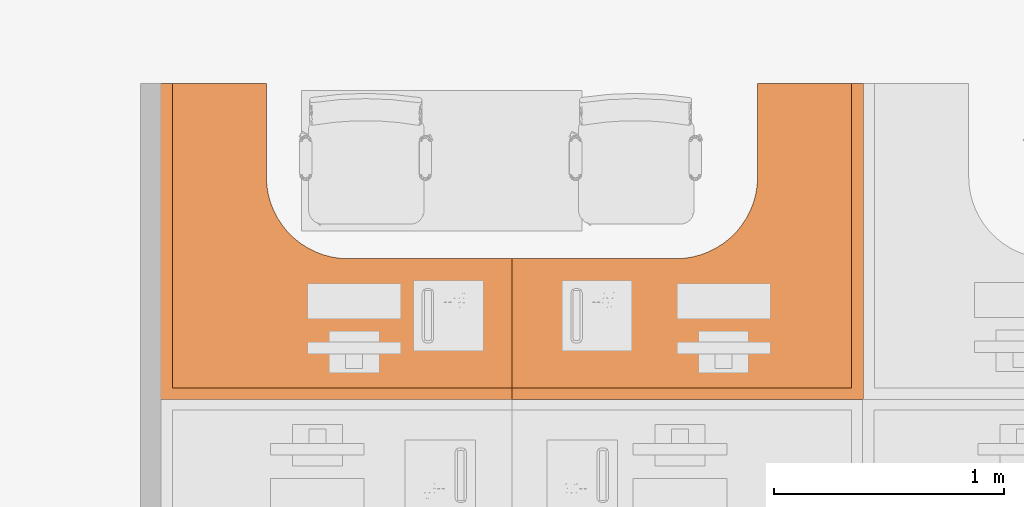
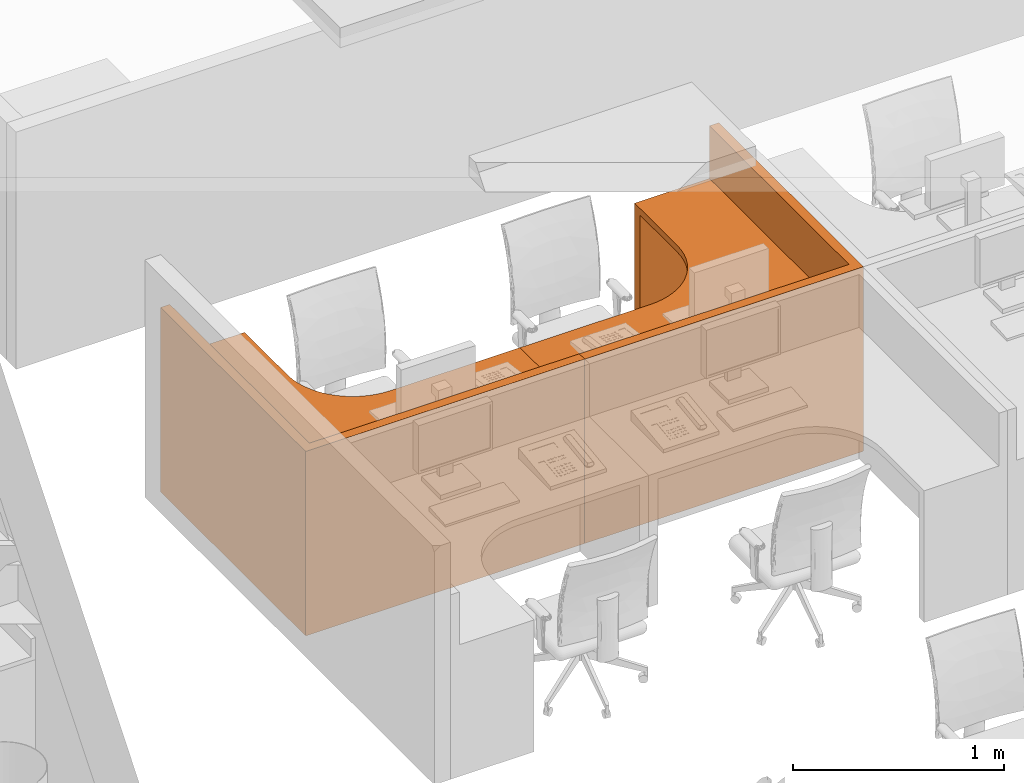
# One storey, part 28 of 142: 2 proxies.
"""IFC2X3 building model written with IfcOpenShell, lengths in feet."""

from ifc_helpers import new_model, entity, si_unit, converted_unit, derived_unit, direction, frame, frame_2d, origin, origin_2d_with_axis, place, context, subcontext, project, spatial, polyline, circle_curve, parameter, trimmed, segment, composite_curve, rectangle, outline, extrude, source, transform, mapped, type_object, type_shapes, element, save


model = new_model("IFC2X3")

# Units and contexts
model_context = context("Model", 3, precision=0.0001, world=origin(), true_north=direction((6.12303176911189e-17, 1.0)))
body_context = subcontext(model_context, "Body", "Model", "MODEL_VIEW")
ifc_project = project(units=[converted_unit("LENGTHUNIT", "FOOT", entity("IfcRatioMeasure", 0.3048), si_unit("LENGTHUNIT", "METRE"), dimensions=[1, 0, 0, 0, 0, 0, 0]), converted_unit("AREAUNIT", "SQUARE FOOT", entity("IfcRatioMeasure", 0.09290304), si_unit("AREAUNIT", "SQUARE_METRE"), dimensions=[2, 0, 0, 0, 0, 0, 0]), converted_unit("VOLUMEUNIT", "CUBIC FOOT", entity("IfcRatioMeasure", 0.028316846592), si_unit("VOLUMEUNIT", "CUBIC_METRE"), dimensions=[3, 0, 0, 0, 0, 0, 0]), converted_unit("PLANEANGLEUNIT", "DEGREE", entity("IfcRatioMeasure", 0.0174532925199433), si_unit("PLANEANGLEUNIT", "RADIAN"), dimensions=[0, 0, 0, 0, 0, 0, 0]), si_unit("MASSUNIT", "GRAM", prefix="KILO"), derived_unit("MASSDENSITYUNIT", [(si_unit("MASSUNIT", "GRAM", prefix="KILO"), 1), (si_unit("LENGTHUNIT", "METRE"), -3)]), si_unit("TIMEUNIT", "SECOND"), si_unit("FREQUENCYUNIT", "HERTZ"), si_unit("THERMODYNAMICTEMPERATUREUNIT", "DEGREE_CELSIUS"), derived_unit("THERMALTRANSMITTANCEUNIT", [(si_unit("MASSUNIT", "GRAM", prefix="KILO"), 1), (si_unit("THERMODYNAMICTEMPERATUREUNIT", "KELVIN"), -1), (si_unit("TIMEUNIT", "SECOND"), -3)]), derived_unit("VOLUMETRICFLOWRATEUNIT", [(si_unit("LENGTHUNIT", "METRE"), 3), (si_unit("TIMEUNIT", "SECOND"), -1)]), si_unit("ELECTRICCURRENTUNIT", "AMPERE"), si_unit("ELECTRICVOLTAGEUNIT", "VOLT"), si_unit("POWERUNIT", "WATT"), si_unit("FORCEUNIT", "NEWTON"), si_unit("ILLUMINANCEUNIT", "LUX"), si_unit("LUMINOUSFLUXUNIT", "LUMEN"), si_unit("LUMINOUSINTENSITYUNIT", "CANDELA"), derived_unit("USERDEFINED", [(si_unit("MASSUNIT", "GRAM", prefix="KILO"), -1), (si_unit("LENGTHUNIT", "METRE"), -2), (si_unit("TIMEUNIT", "SECOND"), 3), (si_unit("LUMINOUSFLUXUNIT", "LUMEN"), 1)]), derived_unit("LINEARVELOCITYUNIT", [(si_unit("LENGTHUNIT", "METRE"), 1), (si_unit("TIMEUNIT", "SECOND"), -1)]), si_unit("PRESSUREUNIT", "PASCAL"), derived_unit("USERDEFINED", [(si_unit("LENGTHUNIT", "METRE"), -2), (si_unit("MASSUNIT", "GRAM", prefix="KILO"), 1), (si_unit("TIMEUNIT", "SECOND"), -2)])], contexts=[model_context])

# Site, building, storey, space
site_placement = place(None, origin())
site = spatial("IfcSite", under=ifc_project, at=site_placement, Name="Default", CompositionType="ELEMENT")
building_placement = place(site_placement, origin())
building = spatial("IfcBuilding", under=site, at=building_placement, Name="OUTPATIENT / PACT CLINIC (Ch. 265)", CompositionType="ELEMENT")
storey_placement = place(building_placement, origin())
storey = spatial("IfcBuildingStorey", under=building, at=storey_placement, Name="LEVEL 1", CompositionType="ELEMENT", Elevation=0.0)
space_placement = place(storey_placement, origin())
space = spatial("IfcSpace", under=storey, at=space_placement, Name="WRTM1", CompositionType="ELEMENT", InteriorOrExteriorSpace="INTERNAL")

# Proxies
building_element_proxy_type_1 = type_object("IfcBuildingElementProxyType", Name="U0075 - Workstation, L-Shaped, Freestanding, 60x54", PredefinedType="NOTDEFINED")
shared_shape_1 = source(origin(), body_context, "Body", "SweptSolid", [
    extrude(rectangle(XDim=0.166666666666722, YDim=2.0, at=frame_2d((-1.3836154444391e-14, 0.0), x_axis=(1.0, 0.0))), frame((0.0833333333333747, -1.0, 0.0), z_axis=(0.0, 0.0, 1.0), x_axis=(-1.0, 0.0, 0.0)), (0.0, 0.0, 1.0), 2.375),
    extrude(rectangle(XDim=0.166666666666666, YDim=1.5, at=frame_2d((0.0, -4.44089209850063e-16), x_axis=(1.0, 0.0))), frame((4.25000000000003, -4.41666666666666, 0.0), z_axis=(0.0, 0.0, 1.0), x_axis=(0.0, 1.0, 0.0)), (0.0, 0.0, 1.0), 2.37499999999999),
    extrude(outline(composite_curve([segment(polyline([(-2.23809523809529, -2.3095238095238), (2.7619047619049, -2.3095238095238)]), True, "CONTINUOUS"), segment(polyline([(2.7619047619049, -2.3095238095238), (2.7619047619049, -0.309523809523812)]), True, "CONTINUOUS"), segment(polyline([(2.7619047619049, -0.309523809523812), (0.428571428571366, -0.309523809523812)]), True, "CONTINUOUS"), segment(trimmed(circle_curve(frame_2d((0.428571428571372, 0.857142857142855), x_axis=(1.0, 0.0)), 1.16666666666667), [parameter(180.0)], [parameter(270.0)], True, "PARAMETER"), False, "CONTINUOUS"), segment(polyline([(-0.738095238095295, 0.857142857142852), (-0.738095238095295, 2.19047619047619)]), True, "CONTINUOUS"), segment(polyline([(-0.738095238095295, 2.19047619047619), (-2.23809523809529, 2.19047619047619)]), True, "CONTINUOUS"), segment(polyline([(-2.23809523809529, 2.19047619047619), (-2.23809523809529, -2.3095238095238)]), True, "CONTINUOUS")], self_intersect=False)), frame((2.76190476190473, -2.30952380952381, 2.37499999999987), z_axis=(0.0, 0.0, 1.0), x_axis=(-1.0, 0.0, 0.0)), (0.0, 0.0, 1.0), 0.125),
    extrude(outline(polyline([(-2.16666666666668, -2.16666666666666), (2.83333333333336, -2.16666666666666), (2.83333333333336, -0.16666666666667), (-0.666666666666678, -0.16666666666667), (-0.666666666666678, 2.33333333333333), (-2.16666666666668, 2.33333333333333), (-2.16666666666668, -2.16666666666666)])), frame((2.83333333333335, -2.16666666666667, 2.37499999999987), z_axis=(0.0, 0.0, 1.0), x_axis=(-1.0, 0.0, 0.0)), (0.0, 0.0, 1.0), 0.125),
    extrude(rectangle(XDim=5.00000000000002, YDim=0.166666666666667, at=origin_2d_with_axis()), frame((2.49999999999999, -0.075000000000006, 0.0), z_axis=(0.0, 0.0, 1.0), x_axis=(-1.0, 0.0, 0.0)), (0.0, 0.0, 1.0), 3.5),
    extrude(rectangle(XDim=4.50000000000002, YDim=0.166666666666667, at=frame_2d((0.0, 4.44089209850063e-16), x_axis=(1.0, 0.0))), frame((4.92500000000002, -2.25000000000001, 0.0), z_axis=(0.0, 0.0, 1.0), x_axis=(0.0, 1.0, 0.0)), (0.0, 0.0, 1.0), 3.5),
])
type_shapes(building_element_proxy_type_1, [shared_shape_1])
proxy_1_placement = place(space_placement, frame((414.359283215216, -922.628851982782, 0.0), z_axis=(0.0, 0.0, 1.0), x_axis=(-1.0, 0.0, 0.0)))
element("IfcBuildingElementProxy", 1, at=proxy_1_placement, inside=space, type_object=building_element_proxy_type_1, Name="U0075 - Workstation, L-Shaped, Freestanding, 60x54:U0075 - Workstation, L-Shaped, Freestanding, 60x54", ObjectType="U0075 - Workstation, L-Shaped, Freestanding, 60x54", context=body_context, shape_type="MappedRepresentation", body=[
    mapped(shared_shape_1, transform((0.0, 0.0, 0.0), scale=1.0)),
])
building_element_proxy_type_2 = type_object("IfcBuildingElementProxyType", Name="U0075 - Workstation, L-Shaped, Freestanding, 60x54", PredefinedType="NOTDEFINED")
shared_shape_2 = source(origin(), body_context, "Body", "SweptSolid", [
    extrude(rectangle(XDim=2.0, YDim=0.166666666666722, at=frame_2d((-1.11022302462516e-16, -1.3836154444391e-14), x_axis=(1.0, 0.0))), frame((0.0833333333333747, 1.0, 0.0), z_axis=(0.0, 0.0, 1.0), x_axis=(0.0, 1.0, 0.0)), (0.0, 0.0, 1.0), 2.375),
    extrude(rectangle(XDim=1.5, YDim=0.166666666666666, at=frame_2d((-4.44089209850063e-16, 0.0), x_axis=(1.0, 0.0))), frame((4.25000000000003, 4.41666666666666, 0.0), z_axis=(0.0, 0.0, 1.0), x_axis=(-1.0, 0.0, 0.0)), (0.0, 0.0, 1.0), 2.37499999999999),
    extrude(outline(composite_curve([segment(polyline([(-2.3095238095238, -2.23809523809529), (2.19047619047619, -2.23809523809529)]), True, "CONTINUOUS"), segment(polyline([(2.19047619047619, -2.23809523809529), (2.19047619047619, -0.738095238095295)]), True, "CONTINUOUS"), segment(polyline([(2.19047619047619, -0.738095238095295), (0.857142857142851, -0.738095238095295)]), True, "CONTINUOUS"), segment(trimmed(circle_curve(frame_2d((0.857142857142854, 0.428571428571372), x_axis=(0.0, 1.0)), 1.16666666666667), [parameter(90.0)], [parameter(180.0)], True, "PARAMETER"), False, "CONTINUOUS"), segment(polyline([(-0.309523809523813, 0.428571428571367), (-0.309523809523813, 2.7619047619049)]), True, "CONTINUOUS"), segment(polyline([(-0.309523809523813, 2.7619047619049), (-2.3095238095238, 2.7619047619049)]), True, "CONTINUOUS"), segment(polyline([(-2.3095238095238, 2.7619047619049), (-2.3095238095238, -2.23809523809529)]), True, "CONTINUOUS")], self_intersect=False)), frame((2.76190476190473, 2.30952380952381, 2.37499999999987), z_axis=(0.0, 0.0, 1.0), x_axis=(0.0, 1.0, 0.0)), (0.0, 0.0, 1.0), 0.125),
    extrude(outline(polyline([(-2.16666666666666, -2.16666666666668), (2.33333333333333, -2.16666666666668), (2.33333333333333, -0.666666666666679), (-0.16666666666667, -0.666666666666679), (-0.16666666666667, 2.83333333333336), (-2.16666666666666, 2.83333333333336), (-2.16666666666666, -2.16666666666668)])), frame((2.83333333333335, 2.16666666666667, 2.37499999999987), z_axis=(0.0, 0.0, 1.0), x_axis=(0.0, 1.0, 0.0)), (0.0, 0.0, 1.0), 0.125),
    extrude(rectangle(XDim=0.166666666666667, YDim=5.00000000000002, at=frame_2d((2.77555756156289e-17, -2.22044604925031e-16), x_axis=(1.0, 0.0))), frame((2.49999999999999, 0.0750000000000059, 0.0), z_axis=(0.0, 0.0, 1.0), x_axis=(0.0, 1.0, 0.0)), (0.0, 0.0, 1.0), 3.5),
    extrude(rectangle(XDim=0.166666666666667, YDim=4.50000000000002, at=frame_2d((4.44089209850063e-16, 2.22044604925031e-16), x_axis=(1.0, 0.0))), frame((4.92500000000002, 2.25000000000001, 0.0), z_axis=(0.0, 0.0, 1.0), x_axis=(-1.0, 0.0, 0.0)), (0.0, 0.0, 1.0), 3.5),
])
type_shapes(building_element_proxy_type_2, [shared_shape_2])
proxy_2_placement = place(space_placement, frame((414.359283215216, -922.628851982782, 0.0)))
element("IfcBuildingElementProxy", 2, at=proxy_2_placement, inside=space, type_object=building_element_proxy_type_2, Name="U0075 - Workstation, L-Shaped, Freestanding, 60x54:U0075 - Workstation, L-Shaped, Freestanding, 60x54", ObjectType="U0075 - Workstation, L-Shaped, Freestanding, 60x54", context=body_context, shape_type="MappedRepresentation", body=[
    mapped(shared_shape_2, transform((0.0, 0.0, 0.0), scale=1.0)),
])

save(model, "model.ifc")
